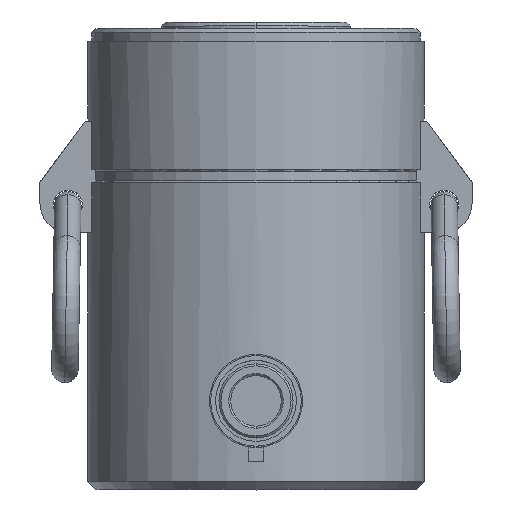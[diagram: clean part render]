
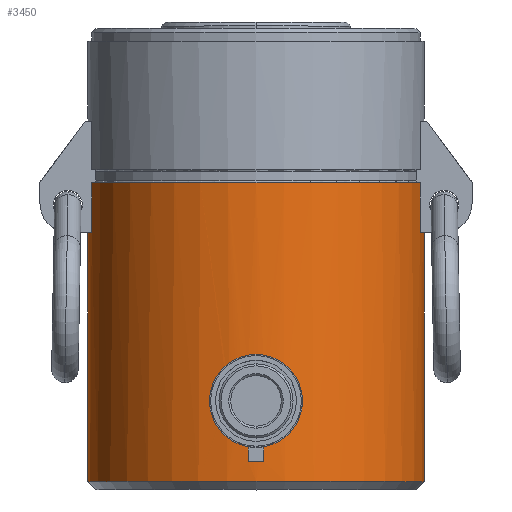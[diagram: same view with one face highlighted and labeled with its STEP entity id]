
A CAD part, top view. The second image highlights one B-rep face of the part: STEP entity #3450.
In plain terms, the highlighted cylindrical face has radius 63.5 mm (diameter 127 mm), a partial arc.
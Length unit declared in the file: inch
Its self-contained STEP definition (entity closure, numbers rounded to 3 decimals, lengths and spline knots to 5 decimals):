
#10=CARTESIAN_POINT('',(0.,-3.03055,0.));
#11=DIRECTION('',(0.,-1.,0.));
#12=DIRECTION('',(-0.975,0.,0.22));
#13=AXIS2_PLACEMENT_3D('',#10,#11,#12);
#15=DIRECTION('',(0.,1.,0.));
#16=VECTOR('',#15,3.69496);
#17=CARTESIAN_POINT('',(2.5,-6.72551,0.));
#18=LINE('',#17,#16);
#36=CARTESIAN_POINT('',(0.,-6.72551,0.));
#37=DIRECTION('',(0.,1.,0.));
#38=DIRECTION('',(-1.,0.,0.));
#39=AXIS2_PLACEMENT_3D('',#36,#37,#38);
#45=DIRECTION('',(0.,1.,0.));
#46=VECTOR('',#45,0.05743);
#47=CARTESIAN_POINT('',(0.11616,-5.12981,2.4973));
#48=LINE('',#47,#46);
#49=CARTESIAN_POINT('',(0.11616,-5.07238,2.4973));
#50=CARTESIAN_POINT('',(0.09046,-5.06798,2.4985));
#51=CARTESIAN_POINT('',(0.03896,-5.06214,2.5001));
#52=CARTESIAN_POINT('',(-0.03896,-5.06214,2.5001));
#53=CARTESIAN_POINT('',(-0.09046,-5.06798,2.4985));
#54=CARTESIAN_POINT('',(-0.11616,-5.07238,2.4973));
#56=DIRECTION('',(0.,-1.,0.));
#57=VECTOR('',#56,0.05743);
#58=CARTESIAN_POINT('',(-0.11616,-5.07238,2.4973));
#59=LINE('',#58,#57);
#60=DIRECTION('',(0.,-1.,0.));
#61=VECTOR('',#60,0.48641);
#62=CARTESIAN_POINT('',(-0.11616,-5.94121,2.4973));
#63=LINE('',#62,#61);
#64=CARTESIAN_POINT('',(-0.11616,-6.42762,2.4973));
#65=CARTESIAN_POINT('',(-0.09046,-6.43202,2.4985));
#66=CARTESIAN_POINT('',(-0.03896,-6.43786,2.5001));
#67=CARTESIAN_POINT('',(0.03896,-6.43786,2.5001));
#68=CARTESIAN_POINT('',(0.09046,-6.43202,2.4985));
#69=CARTESIAN_POINT('',(0.11616,-6.42762,2.4973));
#71=DIRECTION('',(0.,1.,0.));
#72=VECTOR('',#71,0.48641);
#73=CARTESIAN_POINT('',(0.11616,-6.42762,2.4973));
#74=LINE('',#73,#72);
#75=DIRECTION('',(0.,1.,0.));
#76=VECTOR('',#75,3.69496);
#77=CARTESIAN_POINT('',(-2.5,-6.72551,0.));
#78=LINE('',#77,#76);
#79=DIRECTION('',(0.,1.,0.));
#80=VECTOR('',#79,0.74055);
#81=CARTESIAN_POINT('',(-2.43848,-3.03055,0.55118));
#82=LINE('',#81,#80);
#83=DIRECTION('',(0.,-1.,0.));
#84=VECTOR('',#83,0.74055);
#85=CARTESIAN_POINT('',(2.43848,-2.29,0.55118));
#86=LINE('',#85,#84);
#87=CARTESIAN_POINT('',(-0.422,-5.53551,2.46413));
#88=CARTESIAN_POINT('',(-0.422,-5.50617,2.46413));
#89=CARTESIAN_POINT('',(-0.4159,-5.44688,2.46518));
#90=CARTESIAN_POINT('',(-0.38717,-5.35934,2.46994));
#91=CARTESIAN_POINT('',(-0.34015,-5.28037,2.47695));
#92=CARTESIAN_POINT('',(-0.279,-5.21461,2.4847));
#93=CARTESIAN_POINT('',(-0.20325,-5.16183,2.49217));
#94=CARTESIAN_POINT('',(-0.14595,-5.13834,2.49591));
#95=CARTESIAN_POINT('',(-0.11616,-5.12981,2.4973));
#97=CARTESIAN_POINT('',(0.11616,-5.12981,2.4973));
#98=CARTESIAN_POINT('',(0.14596,-5.13835,2.49591));
#99=CARTESIAN_POINT('',(0.20327,-5.16185,2.49217));
#100=CARTESIAN_POINT('',(0.27894,-5.21456,2.48471));
#101=CARTESIAN_POINT('',(0.34014,-5.28034,2.47695));
#102=CARTESIAN_POINT('',(0.38717,-5.35933,2.46994));
#103=CARTESIAN_POINT('',(0.41591,-5.44691,2.46518));
#104=CARTESIAN_POINT('',(0.422,-5.50618,2.46413));
#105=CARTESIAN_POINT('',(0.422,-5.53551,2.46413));
#141=CARTESIAN_POINT('',(0.422,-5.53551,2.46413));
#142=CARTESIAN_POINT('',(0.422,-5.56501,2.46413));
#143=CARTESIAN_POINT('',(0.41587,-5.6246,2.46519));
#144=CARTESIAN_POINT('',(0.38664,-5.71293,2.47002));
#145=CARTESIAN_POINT('',(0.33937,-5.79165,2.47706));
#146=CARTESIAN_POINT('',(0.27831,-5.85697,2.48478));
#147=CARTESIAN_POINT('',(0.20287,-5.90937,2.4922));
#148=CARTESIAN_POINT('',(0.14581,-5.93272,2.49592));
#149=CARTESIAN_POINT('',(0.11616,-5.94121,2.4973));
#151=CARTESIAN_POINT('',(-0.11616,-5.94121,2.4973));
#152=CARTESIAN_POINT('',(-0.14582,-5.93272,
2.49592));
#153=CARTESIAN_POINT('',(-0.20288,-5.90935,
2.4922));
#154=CARTESIAN_POINT('',(-0.27824,-5.85703,
2.48479));
#155=CARTESIAN_POINT('',(-0.33935,-5.79168,
2.47706));
#156=CARTESIAN_POINT('',(-0.38663,-5.71295,
2.47002));
#157=CARTESIAN_POINT('',(-0.41587,-5.62459,
2.46519));
#158=CARTESIAN_POINT('',(-0.422,-5.565,
2.46413));
#159=CARTESIAN_POINT('',(-0.422,-5.53551,
2.46413));
#1047=CARTESIAN_POINT('',(0.,-3.03055,0.));
#1048=DIRECTION('',(0.,-1.,0.));
#1049=DIRECTION('',(1.,0.,0.));
#1050=AXIS2_PLACEMENT_3D('',#1047,#1048,#1049);
#1290=CARTESIAN_POINT('',(0.,-2.29,0.));
#1291=DIRECTION('',(0.,-1.,0.));
#1292=DIRECTION('',(0.975,0.,0.22));
#1293=AXIS2_PLACEMENT_3D('',#1290,#1291,#1292);
#2685=CARTESIAN_POINT('',(-2.43848,-3.03055,
0.55118));
#2686=CARTESIAN_POINT('',(-2.5,-3.03055,0.));
#2687=VERTEX_POINT('',#2685);
#2688=VERTEX_POINT('',#2686);
#2689=CARTESIAN_POINT('',(-2.43848,-2.29,0.55118));
#2690=VERTEX_POINT('',#2689);
#2691=CARTESIAN_POINT('',(2.43848,-2.29,0.55118));
#2692=VERTEX_POINT('',#2691);
#2693=CARTESIAN_POINT('',(2.43848,-3.03055,
0.55118));
#2694=VERTEX_POINT('',#2693);
#2695=CARTESIAN_POINT('',(2.5,-3.03055,0.));
#2696=VERTEX_POINT('',#2695);
#3148=CARTESIAN_POINT('',(-0.11616,-6.42762,2.4973));
#3150=VERTEX_POINT('',#3148);
#3151=CARTESIAN_POINT('',(0.11616,-6.42762,2.4973));
#3152=VERTEX_POINT('',#3151);
#3154=CARTESIAN_POINT('',(0.11616,-5.07238,2.4973));
#3156=VERTEX_POINT('',#3154);
#3157=CARTESIAN_POINT('',(-0.11616,-5.07238,2.4973));
#3158=VERTEX_POINT('',#3157);
#3293=CARTESIAN_POINT('',(2.5,-6.72551,0.));
#3295=VERTEX_POINT('',#3293);
#3297=CARTESIAN_POINT('',(-2.5,-6.72551,0.));
#3299=VERTEX_POINT('',#3297);
#3321=CARTESIAN_POINT('',(-0.422,-5.53551,
2.46413));
#3322=VERTEX_POINT('',#3321);
#3323=CARTESIAN_POINT('',(0.422,-5.53551,
2.46413));
#3324=VERTEX_POINT('',#3323);
#3329=VERTEX_POINT('',#149);
#3330=VERTEX_POINT('',#97);
#3331=VERTEX_POINT('',#95);
#3332=VERTEX_POINT('',#151);
#3409=CARTESIAN_POINT('',(0.,0.,0.));
#3410=DIRECTION('',(0.,-1.,0.));
#3411=DIRECTION('',(-1.,0.,0.));
#3412=AXIS2_PLACEMENT_3D('',#3409,#3410,#3411);
#3413=CYLINDRICAL_SURFACE('',#3412,2.5);
#3414=ORIENTED_EDGE('',*,*,#3400,.F.);
#3415=ORIENTED_EDGE('',*,*,#3375,.T.);
#3416=ORIENTED_EDGE('',*,*,#3352,.F.);
#3418=ORIENTED_EDGE('',*,*,#3417,.T.);
#3420=ORIENTED_EDGE('',*,*,#3419,.F.);
#3422=ORIENTED_EDGE('',*,*,#3421,.T.);
#3424=ORIENTED_EDGE('',*,*,#3423,.F.);
#3425=ORIENTED_EDGE('',*,*,#3364,.F.);
#3426=EDGE_LOOP('',(#3414,#3415,#3416,#3418,#3420,#3422,#3424,#3425));
#3427=FACE_OUTER_BOUND('',#3426,.F.);
#3429=ORIENTED_EDGE('',*,*,#3428,.F.);
#3431=ORIENTED_EDGE('',*,*,#3430,.T.);
#3433=ORIENTED_EDGE('',*,*,#3432,.T.);
#3435=ORIENTED_EDGE('',*,*,#3434,.T.);
#3437=ORIENTED_EDGE('',*,*,#3436,.F.);
#3439=ORIENTED_EDGE('',*,*,#3438,.F.);
#3441=ORIENTED_EDGE('',*,*,#3440,.T.);
#3443=ORIENTED_EDGE('',*,*,#3442,.T.);
#3445=ORIENTED_EDGE('',*,*,#3444,.T.);
#3447=ORIENTED_EDGE('',*,*,#3446,.F.);
#3448=EDGE_LOOP('',(#3429,#3431,#3433,#3435,#3437,#3439,#3441,#3443,#3445,
#3447));
#3449=FACE_BOUND('',#3448,.F.);
#3450=ADVANCED_FACE('',(#3427,#3449),#3413,.T.);
#14=CIRCLE('',#13,2.5);
#40=CIRCLE('',#39,2.5);
#55=B_SPLINE_CURVE_WITH_KNOTS('',3,(#49,#50,#51,#52,#53,#54),.UNSPECIFIED.,.F.,
.F.,(4,1,1,4),(0.,0.33333,0.66667,1.),.UNSPECIFIED.);
#70=B_SPLINE_CURVE_WITH_KNOTS('',3,(#64,#65,#66,#67,#68,#69),.UNSPECIFIED.,.F.,
.F.,(4,1,1,4),(0.,0.33333,0.66667,1.),.UNSPECIFIED.);
#96=B_SPLINE_CURVE_WITH_KNOTS('',3,(#87,#88,#89,#90,#91,#92,#93,#94,#95),
.UNSPECIFIED.,.F.,.F.,(4,1,1,1,1,1,4),(0.,0.16667,0.33333,
0.5,0.66667,0.83333,1.),.UNSPECIFIED.);
#106=B_SPLINE_CURVE_WITH_KNOTS('',3,(#97,#98,#99,#100,#101,#102,#103,#104,#105),
.UNSPECIFIED.,.F.,.F.,(4,1,1,1,1,1,4),(0.,0.16667,0.33333,
0.5,0.66667,0.83333,1.),.UNSPECIFIED.);
#150=B_SPLINE_CURVE_WITH_KNOTS('',3,(#141,#142,#143,#144,#145,#146,#147,#148,
#149),.UNSPECIFIED.,.F.,.F.,(4,1,1,1,1,1,4),(0.,0.16667,
0.33333,0.5,0.66667,0.83333,1.),
.UNSPECIFIED.);
#160=B_SPLINE_CURVE_WITH_KNOTS('',3,(#151,#152,#153,#154,#155,#156,#157,#158,
#159),.UNSPECIFIED.,.F.,.F.,(4,1,1,1,1,1,4),(0.,0.16667,
0.33333,0.5,0.66667,0.83333,1.),
.UNSPECIFIED.);
#1051=CIRCLE('',#1050,2.5);
#1294=CIRCLE('',#1293,2.5);
#3352=EDGE_CURVE('',#2687,#2688,#14,.T.);
#3364=EDGE_CURVE('',#3295,#2696,#18,.T.);
#3375=EDGE_CURVE('',#3299,#2688,#78,.T.);
#3400=EDGE_CURVE('',#3299,#3295,#40,.T.);
#3417=EDGE_CURVE('',#2687,#2690,#82,.T.);
#3419=EDGE_CURVE('',#2692,#2690,#1294,.T.);
#3421=EDGE_CURVE('',#2692,#2694,#86,.T.);
#3423=EDGE_CURVE('',#2696,#2694,#1051,.T.);
#3428=EDGE_CURVE('',#3330,#3324,#106,.T.);
#3430=EDGE_CURVE('',#3330,#3156,#48,.T.);
#3432=EDGE_CURVE('',#3156,#3158,#55,.T.);
#3434=EDGE_CURVE('',#3158,#3331,#59,.T.);
#3436=EDGE_CURVE('',#3322,#3331,#96,.T.);
#3438=EDGE_CURVE('',#3332,#3322,#160,.T.);
#3440=EDGE_CURVE('',#3332,#3150,#63,.T.);
#3442=EDGE_CURVE('',#3150,#3152,#70,.T.);
#3444=EDGE_CURVE('',#3152,#3329,#74,.T.);
#3446=EDGE_CURVE('',#3324,#3329,#150,.T.);
